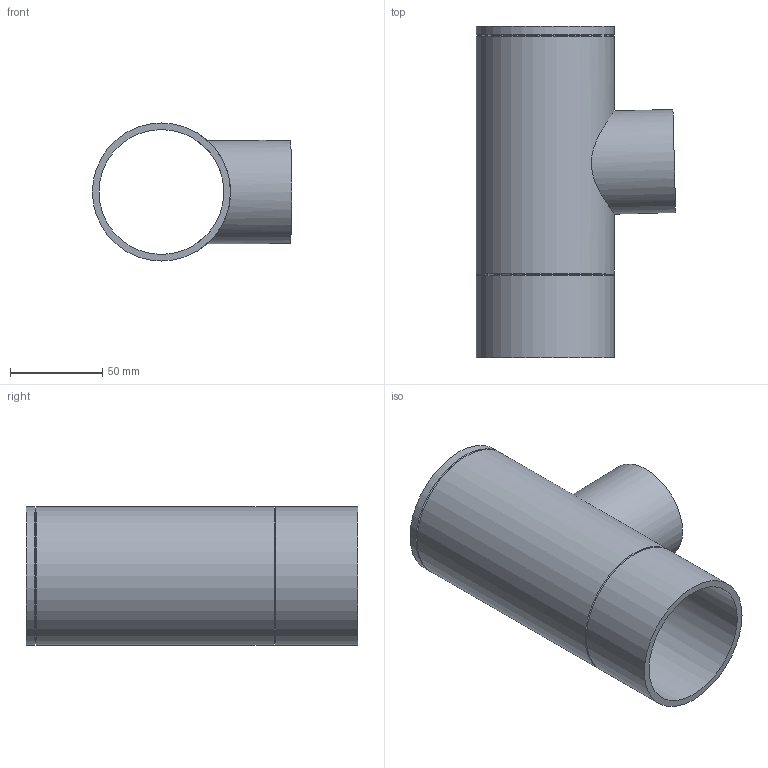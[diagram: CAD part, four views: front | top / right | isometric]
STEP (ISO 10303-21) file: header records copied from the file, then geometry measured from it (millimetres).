
FILE_DESCRIPTION(/* description */ (''),/* implementation_level */ '2;1');
FILE_NAME(/* name */ 'Z:\Geberit\Export\Export18\Abzweig Gerade_Ipart\stp\307058.stp',/* time_stamp */ '2014-08-26T21:48:14+02:00',/* author */ ('ML'),/* organization */ (''),/* preprocessor_version */ 'ST-DEVELOPER v15.2',/* originating_system */ 'Autodesk Inventor 2014',/* authorisation */ '');
FILE_SCHEMA (('AUTOMOTIVE_DESIGN { 1 0 10303 214 3 1 1 }'));
Length unit declared in the file: millimetre
Products named in the file (1): 307058
Bounding box: 108.21 x 180 x 75 mm (x, y, z)
Volume: 157695.2 mm3; surface area: 91703.9 mm2
Topology: 1 solids, 1 shells, 13 faces, 31 edges, 20 vertices
Faces by surface type: cylinder 6, cone 4, plane 3
Full cylindrical faces by diameter (mm): 49.6 x1, 56 x1, 67.8 x1, 75 x3
Entity records: 427 total; most frequent: CARTESIAN_POINT 172, DIRECTION 52, EDGE_LOOP 28, ORIENTED_EDGE 28, AXIS2_PLACEMENT_3D 26, FACE_BOUND 19, VERTEX_POINT 14, EDGE_CURVE 14
